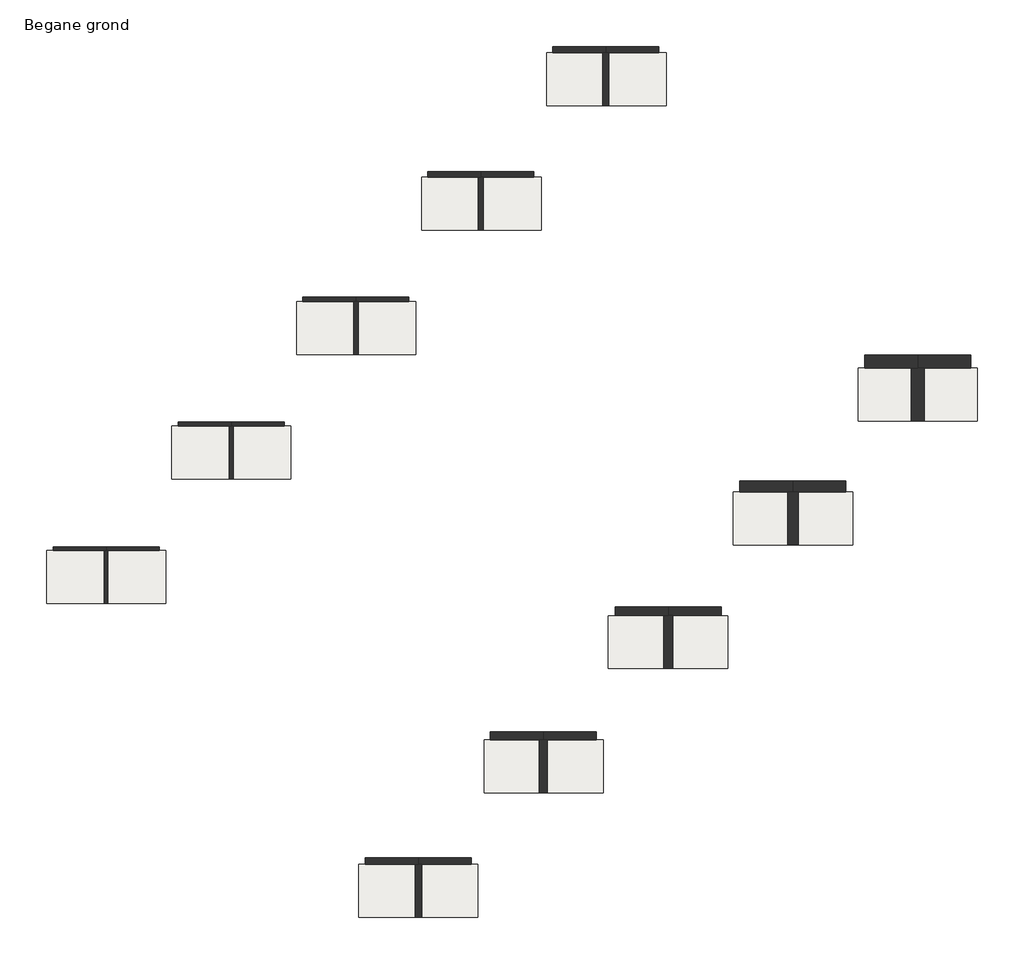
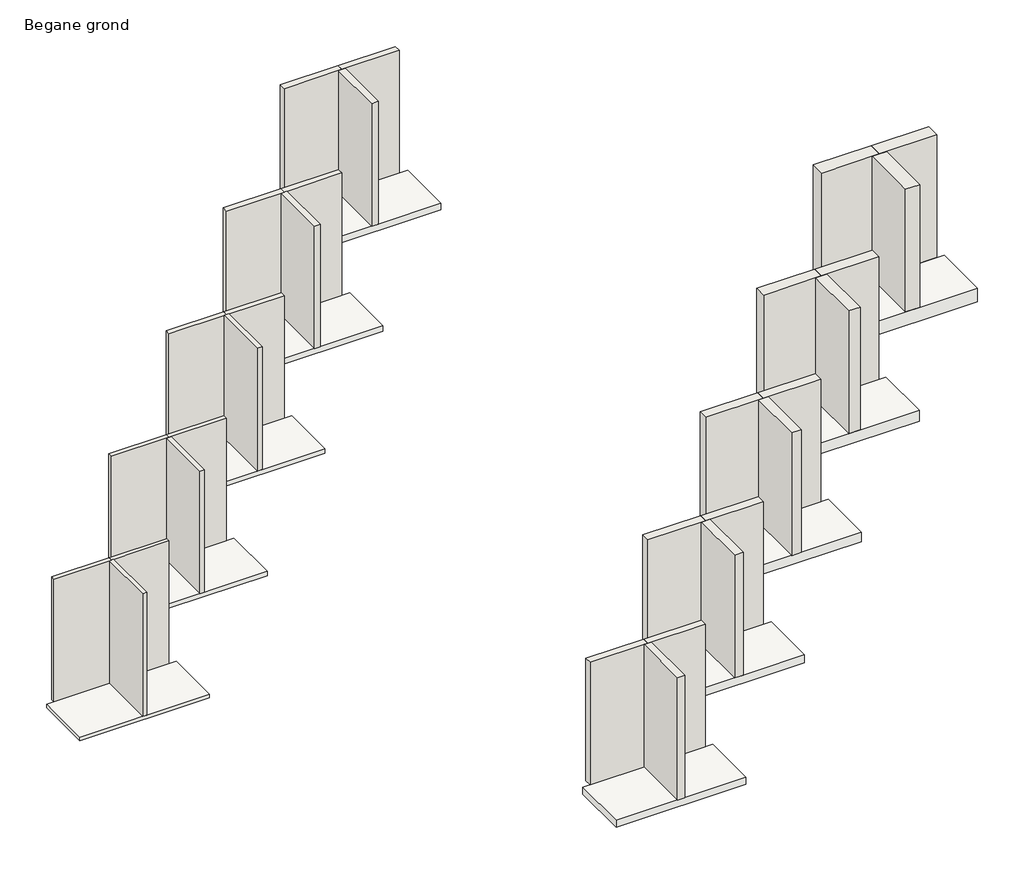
# One storey: 30 walls, 10 slabs.
"""IFC4 building model written with IfcOpenShell, lengths in millimetres."""

import ifcopenshell
import ifcopenshell.guid

model = None  # the IFC model being written
_history = None  # IfcOwnerHistory: only IFC2X3 demands one
_inside = {}  # id of a spatial element -> (the spatial element, [elements in it])
_under = {}  # id of a project, library or spatial element -> (it, [spatial elements below it])
_declared = {}  # id of a project -> (the project, [libraries it declares])
_typed = {}  # id of a type object -> (the type object, [elements of that type])
_made_of = {}  # id of a material, layer set ... -> (it, [elements and type objects made of it])


def new_model(schema):
    """Start an empty IFC model of exactly this schema.

    Asked for "IFC4X3", IfcOpenShell would pick the latest addendum, in which some entities
    have other attributes; the version numbers below select the first issue.
    IFC2X3 requires an IfcOwnerHistory on every rooted entity: one is made here for all.
    """
    global model, _history
    if schema == "IFC4X3":
        model = ifcopenshell.file(schema_version=(4, 3, 0, 0))
    else:
        model = ifcopenshell.file(schema=schema)
    _inside.clear()
    _under.clear()
    _declared.clear()
    _typed.clear()
    _made_of.clear()
    _history = None
    if model.schema == "IFC2X3":
        org = make("IfcOrganization", Name="unknown")
        user = make(
            "IfcPersonAndOrganization",
            ThePerson=make("IfcPerson", FamilyName="unknown"),
            TheOrganization=org,
        )
        app = make(
            "IfcApplication",
            ApplicationDeveloper=org,
            Version="unknown",
            ApplicationFullName="unknown",
            ApplicationIdentifier="unknown",
        )
        _history = make(
            "IfcOwnerHistory",
            OwningUser=user,
            OwningApplication=app,
            ChangeAction="ADDED",
            CreationDate=0,
        )
    return model


def make(cls, **values):
    """One entity of the class cls with the attributes given. An attribute that is None is left unset."""
    return model.create_entity(
        cls, **{name: value for name, value in values.items() if value is not None}
    )


def rooted(cls, **values):
    """An entity with a GlobalId (a new one), such as an element, a storey or a relation."""
    return make(cls, GlobalId=ifcopenshell.guid.new(), OwnerHistory=_history, **values)


def si_unit(unit_type, name, prefix=None):
    """IfcSIUnit, for example si_unit("LENGTHUNIT", "METRE", prefix="MILLI")."""
    return make("IfcSIUnit", UnitType=unit_type, Prefix=prefix, Name=name)


def assignment(units):
    """IfcUnitAssignment: the units of a project."""
    return None if units is None else make("IfcUnitAssignment", Units=units)


def point(xyz):
    """IfcCartesianPoint."""
    return None if xyz is None else make("IfcCartesianPoint", Coordinates=xyz)


def direction(xyz):
    """IfcDirection."""
    return None if xyz is None else make("IfcDirection", DirectionRatios=xyz)


def frame(location, z_axis=None, x_axis=None):
    """IfcAxis2Placement3D, a coordinate frame: its origin and axes. An axis left out is left unset."""
    return make(
        "IfcAxis2Placement3D",
        Location=point(location),
        Axis=direction(z_axis),
        RefDirection=direction(x_axis),
    )


def origin():
    """The frame at (0, 0, 0) with its axes left unset."""
    return frame((0.0, 0.0, 0.0))


def origin_with_axes():
    """The frame at (0, 0, 0) with the z axis (0, 0, 1) and the x axis (1, 0, 0) written out."""
    return frame((0.0, 0.0, 0.0), z_axis=(0.0, 0.0, 1.0), x_axis=(1.0, 0.0, 0.0))


def place(relative_to, where):
    """IfcLocalPlacement: puts the frame where relative to a parent placement (None: the world)."""
    return make(
        "IfcLocalPlacement", PlacementRelTo=relative_to, RelativePlacement=where
    )


def context(
    kind, dimensions, precision=None, world=None, true_north=None, identifier=None
):
    """IfcGeometricRepresentationContext, for example the 3D "Model" context."""
    return make(
        "IfcGeometricRepresentationContext",
        ContextIdentifier=identifier,
        ContextType=kind,
        CoordinateSpaceDimension=dimensions,
        Precision=precision,
        WorldCoordinateSystem=world,
        TrueNorth=true_north,
    )


def project(units=None, contexts=None):
    """IfcProject with its units and contexts."""
    return rooted(
        "IfcProject",
        Name="project",
        RepresentationContexts=contexts,
        UnitsInContext=assignment(units),
    )


def spatial(cls, under=None, at=None, **own):
    """A site, building, storey or space (cls), placed at a placement, below another one or the project."""
    s = rooted(cls, ObjectPlacement=at, **own)
    if under is not None:
        _under.setdefault(under.id(), (under, []))[1].append(s)
    return s


def polyline(points):
    """IfcPolyline through the points."""
    return make("IfcPolyline", Points=[point(p) for p in points])


def outline(outer, holes=None, kind="AREA"):
    """IfcArbitraryClosedProfileDef: a profile drawn as a closed curve; with holes, ...WithVoids."""
    if holes is None:
        return make("IfcArbitraryClosedProfileDef", ProfileType=kind, OuterCurve=outer)
    return make(
        "IfcArbitraryProfileDefWithVoids",
        ProfileType=kind,
        OuterCurve=outer,
        InnerCurves=holes,
    )


def extrude(swept, where, along, depth):
    """IfcExtrudedAreaSolid: the profile swept, set in the frame where, extruded along a direction by depth."""
    return make(
        "IfcExtrudedAreaSolid",
        SweptArea=swept,
        Position=where,
        ExtrudedDirection=direction(along),
        Depth=depth,
    )


def shape(context_of_items, identifier, shape_type, items):
    """IfcShapeRepresentation: the items that make up one representation, for example the "Body"."""
    return make(
        "IfcShapeRepresentation",
        ContextOfItems=context_of_items,
        RepresentationIdentifier=identifier,
        RepresentationType=shape_type,
        Items=items,
    )


def made_of(thing, what):
    """Note that an element or type object is made of a material, layer set ...; save() writes the relation."""
    if what is not None:
        _made_of.setdefault(what.id(), (what, []))[1].append(thing)
    return thing


def element(
    cls,
    number,
    at=None,
    inside=None,
    cuts=None,
    type_object=None,
    material=None,
    context=None,
    identifier="Body",
    shape_type=None,
    held_by="IfcProductDefinitionShape",
    body=None,
    shapes=None,
    **own,
):
    """One element of the class cls, such as IfcWall. Its Tag is "e" and its number.

    at: its placement. inside: the storey or other place that contains it. cuts: it is an
    opening in that element (IfcRelVoidsElement). A single representation is given by context,
    identifier, shape_type and body (its items); several are given by shapes. held_by: the class
    of the entity that holds the representations. save() writes the other relations.
    """
    e = rooted(cls, Tag="e%d" % number, ObjectPlacement=at, **own)
    if body is not None:
        shapes = [shape(context, identifier, shape_type, body)]
    if shapes is not None:
        e.Representation = make(held_by, Representations=shapes)
    if inside is not None:
        _inside.setdefault(inside.id(), (inside, []))[1].append(e)
    if cuts is not None:
        rooted(
            "IfcRelVoidsElement", RelatingBuildingElement=cuts, RelatedOpeningElement=e
        )
    if type_object is not None:
        _typed.setdefault(type_object.id(), (type_object, []))[1].append(e)
    return made_of(e, material)


def aggregate(whole, parts):
    """IfcRelAggregates: a whole, such as a stair, and the parts it consists of."""
    return rooted("IfcRelAggregates", RelatingObject=whole, RelatedObjects=parts)


def save(model, path):
    """Write the relations noted so far, then the file.

    IfcRelAggregates (storeys below a building ...), IfcRelContainedInSpatialStructure (elements
    in a storey), IfcRelDefinesByType, IfcRelAssociatesMaterial and IfcRelDeclares: one each for
    every whole, place, type object, material and project.
    """
    for whole, parts in _under.values():
        aggregate(whole, parts)
    for where, things in _inside.values():
        rooted(
            "IfcRelContainedInSpatialStructure",
            RelatedElements=things,
            RelatingStructure=where,
        )
    for kind, things in _typed.values():
        rooted("IfcRelDefinesByType", RelatedObjects=things, RelatingType=kind)
    for what, things in _made_of.values():
        rooted("IfcRelAssociatesMaterial", RelatedObjects=things, RelatingMaterial=what)
    for by, libraries in _declared.values():
        rooted("IfcRelDeclares", RelatingContext=by, RelatedDefinitions=libraries)
    model.write(path)


model = new_model("IFC4")

# Units and contexts
model_context = context("Model", 3, world=origin())
ifc_project = project(units=[si_unit("LENGTHUNIT", "METRE", prefix="MILLI")], contexts=[model_context])

# Site, building, storey
site = spatial("IfcSite", under=ifc_project)
building = spatial("IfcBuilding", under=site)
storey = spatial("IfcBuildingStorey", under=building, Name="Begane grond", Elevation=0.0)

# Slabs
placement = place(None, origin())
element("IfcSlab", 1, ObjectType="NLRS_23_FL_Acoustifit_40x600x1350mm", at=placement, inside=storey, context=model_context, shape_type="SweptSolid", body=[
    extrude(outline(polyline([(428.117207, 2342.8428928), (1778.117207, 2342.8428928), (1778.117207, 1742.8428928), (428.117207, 1742.8428928), (428.117207, 2342.8428928)])), frame((0.0, 0.0, -40.0), z_axis=(0.0, 0.0, 1.0), x_axis=(1.0, 0.0, 0.0)), (0.0, 0.0, 1.0), 40.0),
])
element("IfcSlab", 2, ObjectType="NLRS_23_FL_Acoustifit_45x600x1350mm", at=placement, inside=storey, context=model_context, shape_type="SweptSolid", body=[
    extrude(outline(polyline([(1844.8307694, 3754.5564551), (3194.8307694, 3754.5564551), (3194.8307694, 3154.5564551), (1844.8307694, 3154.5564551), (1844.8307694, 3754.5564551)])), frame((0.0, 0.0, -45.0), z_axis=(0.0, 0.0, 1.0), x_axis=(1.0, 0.0, 0.0)), (0.0, 0.0, 1.0), 45.0),
])
element("IfcSlab", 3, ObjectType="NLRS_23_FL_Acoustifit_50x600x1350mm", at=placement, inside=storey, context=model_context, shape_type="SweptSolid", body=[
    extrude(outline(polyline([(3261.5443317, 5166.2700175), (4611.5443317, 5166.2700175), (4611.5443317, 4566.2700175), (3261.5443317, 4566.2700175), (3261.5443317, 5166.2700175)])), frame((0.0, 0.0, -50.0), z_axis=(0.0, 0.0, 1.0), x_axis=(1.0, 0.0, 0.0)), (0.0, 0.0, 1.0), 50.0),
])
element("IfcSlab", 4, ObjectType="NLRS_23_FL_Acoustifit_60x600x1350mm", at=placement, inside=storey, context=model_context, shape_type="SweptSolid", body=[
    extrude(outline(polyline([(4678.2578941, 6575.4835799), (6028.2578941, 6575.4835799), (6028.2578941, 5975.4835799), (4678.2578941, 5975.4835799), (4678.2578941, 6575.4835799)])), frame((0.0, 0.0, -60.0), z_axis=(0.0, 0.0, 1.0), x_axis=(1.0, 0.0, 0.0)), (0.0, 0.0, 1.0), 60.0),
])
element("IfcSlab", 5, ObjectType="NLRS_23_FL_Acoustifit_70x600x1350mm", at=placement, inside=storey, context=model_context, shape_type="SweptSolid", body=[
    extrude(outline(polyline([(6094.9714565, 7984.6971423), (7444.9714565, 7984.6971423), (7444.9714565, 7384.6971423), (6094.9714565, 7384.6971423), (6094.9714565, 7984.6971423)])), frame((0.0, 0.0, -70.0), z_axis=(0.0, 0.0, 1.0), x_axis=(1.0, 0.0, 0.0)), (0.0, 0.0, 1.0), 70.0),
])
element("IfcSlab", 6, ObjectType="NLRS_23_FL_Acoustifit_75x600x1350mm", at=placement, inside=storey, context=model_context, shape_type="SweptSolid", body=[
    extrude(outline(polyline([(3963.6511129, -1210.1910132), (5313.6511129, -1210.1910132), (5313.6511129, -1810.1910132), (3963.6511129, -1810.1910132), (3963.6511129, -1210.1910132)])), frame((0.0, 0.0, -75.0), z_axis=(0.0, 0.0, 1.0), x_axis=(1.0, 0.0, 0.0)), (0.0, 0.0, 1.0), 75.0),
])
element("IfcSlab", 7, ObjectType="NLRS_23_FL_Acoustifit_90x600x1350mm", at=placement, inside=storey, context=model_context, shape_type="SweptSolid", body=[
    extrude(outline(polyline([(5385.3646753, 196.5225492), (6735.3646753, 196.5225492), (6735.3646753, -403.4774508), (5385.3646753, -403.4774508), (5385.3646753, 196.5225492)])), frame((0.0, 0.0, -90.0), z_axis=(0.0, 0.0, 1.0), x_axis=(1.0, 0.0, 0.0)), (0.0, 0.0, 1.0), 90.0),
])
element("IfcSlab", 8, ObjectType="NLRS_23_FL_Acoustifit_100x600x1350mm", at=placement, inside=storey, context=model_context, shape_type="SweptSolid", body=[
    extrude(outline(polyline([(6792.0782377, 1605.7361116), (8142.0782377, 1605.7361116), (8142.0782377, 1005.7361116), (6792.0782377, 1005.7361116), (6792.0782377, 1605.7361116)])), frame((0.0, 0.0, -100.0), z_axis=(0.0, 0.0, 1.0), x_axis=(1.0, 0.0, 0.0)), (0.0, 0.0, 1.0), 100.0),
])
element("IfcSlab", 9, ObjectType="NLRS_23_FL_Acoustifit_120x600x1350mm", at=placement, inside=storey, context=model_context, shape_type="SweptSolid", body=[
    extrude(outline(polyline([(8206.2918, 3009.949674), (9556.2918, 3009.949674), (9556.2918, 2409.949674), (8206.2918, 2409.949674), (8206.2918, 3009.949674)])), frame((0.0, 0.0, -120.0), z_axis=(0.0, 0.0, 1.0), x_axis=(1.0, 0.0, 0.0)), (0.0, 0.0, 1.0), 120.0),
])
element("IfcSlab", 10, ObjectType="NLRS_23_FL_Acoustifit_150x600x1350mm", at=placement, inside=storey, context=model_context, shape_type="SweptSolid", body=[
    extrude(outline(polyline([(9620.5053624, 4409.1632363), (10970.5053624, 4409.1632363), (10970.5053624, 3809.1632363), (9620.5053624, 3809.1632363), (9620.5053624, 4409.1632363)])), frame((0.0, 0.0, -150.0), z_axis=(0.0, 0.0, 1.0), x_axis=(1.0, 0.0, 0.0)), (0.0, 0.0, 1.0), 150.0),
])

# Walls
element("IfcWall", 11, ObjectType="NLRS_21_WA__Acoustifit_40x600x1350mm", at=placement, inside=storey, context=model_context, shape_type="SweptSolid", body=[
    extrude(outline(polyline([(1103.117207, 2342.8428928), (503.117207, 2342.8428928), (503.117207, 2382.8428928), (1103.117207, 2382.8428928), (1103.117207, 2342.8428928)])), origin_with_axes(), (0.0, 0.0, 1.0), 1350.0),
])
element("IfcWall", 12, ObjectType="NLRS_21_WA__Acoustifit_40x600x1350mm", at=placement, inside=storey, context=model_context, shape_type="SweptSolid", body=[
    extrude(outline(polyline([(1083.117207, 1742.8428928), (1083.117207, 2342.8428928), (1123.117207, 2342.8428928), (1123.117207, 1742.8428928), (1083.117207, 1742.8428928)])), origin_with_axes(), (0.0, 0.0, 1.0), 1350.0),
])
element("IfcWall", 13, ObjectType="NLRS_21_WA__Acoustifit_40x600x1350mm", at=placement, inside=storey, context=model_context, shape_type="SweptSolid", body=[
    extrude(outline(polyline([(1703.117207, 2342.8428928), (1103.117207, 2342.8428928), (1103.117207, 2382.8428928), (1703.117207, 2382.8428928), (1703.117207, 2342.8428928)])), origin_with_axes(), (0.0, 0.0, 1.0), 1350.0),
])
element("IfcWall", 14, ObjectType="NLRS_21_WA__Acoustifit_45x600x1350mm", at=placement, inside=storey, context=model_context, shape_type="SweptSolid", body=[
    extrude(outline(polyline([(2517.3307694, 3754.5564551), (1917.3307694, 3754.5564551), (1917.3307694, 3799.5564551), (2517.3307694, 3799.5564551), (2517.3307694, 3754.5564551)])), origin_with_axes(), (0.0, 0.0, 1.0), 1350.0),
])
element("IfcWall", 15, ObjectType="NLRS_21_WA__Acoustifit_45x600x1350mm", at=placement, inside=storey, context=model_context, shape_type="SweptSolid", body=[
    extrude(outline(polyline([(2494.8307694, 3154.5564551), (2494.8307694, 3754.5564551), (2539.8307694, 3754.5564551), (2539.8307694, 3154.5564551), (2494.8307694, 3154.5564551)])), origin_with_axes(), (0.0, 0.0, 1.0), 1350.0),
])
element("IfcWall", 16, ObjectType="NLRS_21_WA__Acoustifit_45x600x1350mm", at=placement, inside=storey, context=model_context, shape_type="SweptSolid", body=[
    extrude(outline(polyline([(3117.3307694, 3754.5564551), (2517.3307694, 3754.5564551), (2517.3307694, 3799.5564551), (3117.3307694, 3799.5564551), (3117.3307694, 3754.5564551)])), origin_with_axes(), (0.0, 0.0, 1.0), 1350.0),
])
element("IfcWall", 17, ObjectType="NLRS_21_WA__Acoustifit_50x600x1350mm", at=placement, inside=storey, context=model_context, shape_type="SweptSolid", body=[
    extrude(outline(polyline([(3931.5443317, 5166.2700175), (3331.5443317, 5166.2700175), (3331.5443317, 5216.2700175), (3931.5443317, 5216.2700175), (3931.5443317, 5166.2700175)])), origin_with_axes(), (0.0, 0.0, 1.0), 1350.0),
])
element("IfcWall", 18, ObjectType="NLRS_21_WA__Acoustifit_50x600x1350mm", at=placement, inside=storey, context=model_context, shape_type="SweptSolid", body=[
    extrude(outline(polyline([(3906.5443317, 4566.2700175), (3906.5443317, 5166.2700175), (3956.5443317, 5166.2700175), (3956.5443317, 4566.2700175), (3906.5443317, 4566.2700175)])), origin_with_axes(), (0.0, 0.0, 1.0), 1350.0),
])
element("IfcWall", 19, ObjectType="NLRS_21_WA__Acoustifit_50x600x1350mm", at=placement, inside=storey, context=model_context, shape_type="SweptSolid", body=[
    extrude(outline(polyline([(4531.5443317, 5166.2700175), (3931.5443317, 5166.2700175), (3931.5443317, 5216.2700175), (4531.5443317, 5216.2700175), (4531.5443317, 5166.2700175)])), origin_with_axes(), (0.0, 0.0, 1.0), 1350.0),
])
element("IfcWall", 20, ObjectType="NLRS_21_WA__Acoustifit_60x600x1350mm", at=placement, inside=storey, context=model_context, shape_type="SweptSolid", body=[
    extrude(outline(polyline([(5345.7578941, 6575.4835799), (4745.7578941, 6575.4835799), (4745.7578941, 6635.4835799), (5345.7578941, 6635.4835799), (5345.7578941, 6575.4835799)])), origin_with_axes(), (0.0, 0.0, 1.0), 1350.0),
])
element("IfcWall", 21, ObjectType="NLRS_21_WA__Acoustifit_60x600x1350mm", at=placement, inside=storey, context=model_context, shape_type="SweptSolid", body=[
    extrude(outline(polyline([(5315.7578941, 5975.4835799), (5315.7578941, 6575.4835799), (5375.7578941, 6575.4835799), (5375.7578941, 5975.4835799), (5315.7578941, 5975.4835799)])), origin_with_axes(), (0.0, 0.0, 1.0), 1350.0),
])
element("IfcWall", 22, ObjectType="NLRS_21_WA__Acoustifit_60x600x1350mm", at=placement, inside=storey, context=model_context, shape_type="SweptSolid", body=[
    extrude(outline(polyline([(5945.7578941, 6575.4835799), (5345.7578941, 6575.4835799), (5345.7578941, 6635.4835799), (5945.7578941, 6635.4835799), (5945.7578941, 6575.4835799)])), origin_with_axes(), (0.0, 0.0, 1.0), 1350.0),
])
element("IfcWall", 23, ObjectType="NLRS_21_WA__Acoustifit_70x600x1350mm", at=placement, inside=storey, context=model_context, shape_type="SweptSolid", body=[
    extrude(outline(polyline([(6759.9714565, 7984.6971423), (6159.9714565, 7984.6971423), (6159.9714565, 8054.6971423), (6759.9714565, 8054.6971423), (6759.9714565, 7984.6971423)])), origin_with_axes(), (0.0, 0.0, 1.0), 1350.0),
])
element("IfcWall", 24, ObjectType="NLRS_21_WA__Acoustifit_70x600x1350mm", at=placement, inside=storey, context=model_context, shape_type="SweptSolid", body=[
    extrude(outline(polyline([(6724.9714565, 7384.6971423), (6724.9714565, 7984.6971423), (6794.9714565, 7984.6971423), (6794.9714565, 7384.6971423), (6724.9714565, 7384.6971423)])), origin_with_axes(), (0.0, 0.0, 1.0), 1350.0),
])
element("IfcWall", 25, ObjectType="NLRS_21_WA__Acoustifit_70x600x1350mm", at=placement, inside=storey, context=model_context, shape_type="SweptSolid", body=[
    extrude(outline(polyline([(7359.9714565, 7984.6971423), (6759.9714565, 7984.6971423), (6759.9714565, 8054.6971423), (7359.9714565, 8054.6971423), (7359.9714565, 7984.6971423)])), origin_with_axes(), (0.0, 0.0, 1.0), 1350.0),
])
element("IfcWall", 26, ObjectType="NLRS_21_WA__Acoustifit_75x600x1350mm", at=placement, inside=storey, context=model_context, shape_type="SweptSolid", body=[
    extrude(outline(polyline([(4638.6511129, -1210.1910132), (4038.6511129, -1210.1910132), (4038.6511129, -1135.1910132), (4638.6511129, -1135.1910132), (4638.6511129, -1210.1910132)])), origin_with_axes(), (0.0, 0.0, 1.0), 1350.0),
])
element("IfcWall", 27, ObjectType="NLRS_21_WA__Acoustifit_75x600x1350mm", at=placement, inside=storey, context=model_context, shape_type="SweptSolid", body=[
    extrude(outline(polyline([(4601.1511129, -1810.1910132), (4601.1511129, -1210.1910132), (4676.1511129, -1210.1910132), (4676.1511129, -1810.1910132), (4601.1511129, -1810.1910132)])), origin_with_axes(), (0.0, 0.0, 1.0), 1350.0),
])
element("IfcWall", 28, ObjectType="NLRS_21_WA__Acoustifit_75x600x1350mm", at=placement, inside=storey, context=model_context, shape_type="SweptSolid", body=[
    extrude(outline(polyline([(5238.6511129, -1210.1910132), (4638.6511129, -1210.1910132), (4638.6511129, -1135.1910132), (5238.6511129, -1135.1910132), (5238.6511129, -1210.1910132)])), origin_with_axes(), (0.0, 0.0, 1.0), 1350.0),
])
element("IfcWall", 29, ObjectType="NLRS_21_WA__Acoustifit_90x600x1350mm", at=placement, inside=storey, context=model_context, shape_type="SweptSolid", body=[
    extrude(outline(polyline([(6052.8646753, 196.5225492), (5452.8646753, 196.5225492), (5452.8646753, 286.5225492), (6052.8646753, 286.5225492), (6052.8646753, 196.5225492)])), origin_with_axes(), (0.0, 0.0, 1.0), 1350.0),
])
element("IfcWall", 30, ObjectType="NLRS_21_WA__Acoustifit_90x600x1350mm", at=placement, inside=storey, context=model_context, shape_type="SweptSolid", body=[
    extrude(outline(polyline([(6007.8646753, -403.4774508), (6007.8646753, 196.5225492), (6097.8646753, 196.5225492), (6097.8646753, -403.4774508), (6007.8646753, -403.4774508)])), origin_with_axes(), (0.0, 0.0, 1.0), 1350.0),
])
element("IfcWall", 31, ObjectType="NLRS_21_WA__Acoustifit_90x600x1350mm", at=placement, inside=storey, context=model_context, shape_type="SweptSolid", body=[
    extrude(outline(polyline([(6652.8646753, 196.5225492), (6052.8646753, 196.5225492), (6052.8646753, 286.5225492), (6652.8646753, 286.5225492), (6652.8646753, 196.5225492)])), origin_with_axes(), (0.0, 0.0, 1.0), 1350.0),
])
element("IfcWall", 32, ObjectType="NLRS_21_WA__Acoustifit_100x600x1350mm", at=placement, inside=storey, context=model_context, shape_type="SweptSolid", body=[
    extrude(outline(polyline([(7467.0782377, 1605.7361116), (6867.0782377, 1605.7361116), (6867.0782377, 1705.7361116), (7467.0782377, 1705.7361116), (7467.0782377, 1605.7361116)])), origin_with_axes(), (0.0, 0.0, 1.0), 1350.0),
])
element("IfcWall", 33, ObjectType="NLRS_21_WA__Acoustifit_100x600x1350mm", at=placement, inside=storey, context=model_context, shape_type="SweptSolid", body=[
    extrude(outline(polyline([(7417.0782377, 1005.7361116), (7417.0782377, 1605.7361116), (7517.0782377, 1605.7361116), (7517.0782377, 1005.7361116), (7417.0782377, 1005.7361116)])), origin_with_axes(), (0.0, 0.0, 1.0), 1350.0),
])
element("IfcWall", 34, ObjectType="NLRS_21_WA__Acoustifit_100x600x1350mm", at=placement, inside=storey, context=model_context, shape_type="SweptSolid", body=[
    extrude(outline(polyline([(8067.0782377, 1605.7361116), (7467.0782377, 1605.7361116), (7467.0782377, 1705.7361116), (8067.0782377, 1705.7361116), (8067.0782377, 1605.7361116)])), origin_with_axes(), (0.0, 0.0, 1.0), 1350.0),
])
element("IfcWall", 35, ObjectType="NLRS_21_WA__Acoustifit_120x600x1350mm", at=placement, inside=storey, context=model_context, shape_type="SweptSolid", body=[
    extrude(outline(polyline([(8881.2918, 3009.949674), (8281.2918, 3009.949674), (8281.2918, 3129.949674), (8881.2918, 3129.949674), (8881.2918, 3009.949674)])), origin_with_axes(), (0.0, 0.0, 1.0), 1350.0),
])
element("IfcWall", 36, ObjectType="NLRS_21_WA__Acoustifit_120x600x1350mm", at=placement, inside=storey, context=model_context, shape_type="SweptSolid", body=[
    extrude(outline(polyline([(8821.2918, 2409.949674), (8821.2918, 3009.949674), (8941.2918, 3009.949674), (8941.2918, 2409.949674), (8821.2918, 2409.949674)])), origin_with_axes(), (0.0, 0.0, 1.0), 1350.0),
])
element("IfcWall", 37, ObjectType="NLRS_21_WA__Acoustifit_120x600x1350mm", at=placement, inside=storey, context=model_context, shape_type="SweptSolid", body=[
    extrude(outline(polyline([(9481.2918, 3009.949674), (8881.2918, 3009.949674), (8881.2918, 3129.949674), (9481.2918, 3129.949674), (9481.2918, 3009.949674)])), origin_with_axes(), (0.0, 0.0, 1.0), 1350.0),
])
element("IfcWall", 38, ObjectType="NLRS_21_WA__Acoustifit_150x600x1350mm", at=placement, inside=storey, context=model_context, shape_type="SweptSolid", body=[
    extrude(outline(polyline([(10295.5053624, 4409.1632363), (9695.5053624, 4409.1632363), (9695.5053624, 4559.1632363), (10295.5053624, 4559.1632363), (10295.5053624, 4409.1632363)])), origin_with_axes(), (0.0, 0.0, 1.0), 1350.0),
])
element("IfcWall", 39, ObjectType="NLRS_21_WA__Acoustifit_150x600x1350mm", at=placement, inside=storey, context=model_context, shape_type="SweptSolid", body=[
    extrude(outline(polyline([(10220.5053624, 3809.1632363), (10220.5053624, 4409.1632363), (10370.5053624, 4409.1632363), (10370.5053624, 3809.1632363), (10220.5053624, 3809.1632363)])), origin_with_axes(), (0.0, 0.0, 1.0), 1350.0),
])
element("IfcWall", 40, ObjectType="NLRS_21_WA__Acoustifit_150x600x1350mm", at=placement, inside=storey, context=model_context, shape_type="SweptSolid", body=[
    extrude(outline(polyline([(10895.5053624, 4409.1632363), (10295.5053624, 4409.1632363), (10295.5053624, 4559.1632363), (10895.5053624, 4559.1632363), (10895.5053624, 4409.1632363)])), origin_with_axes(), (0.0, 0.0, 1.0), 1350.0),
])

save(model, "model.ifc")
